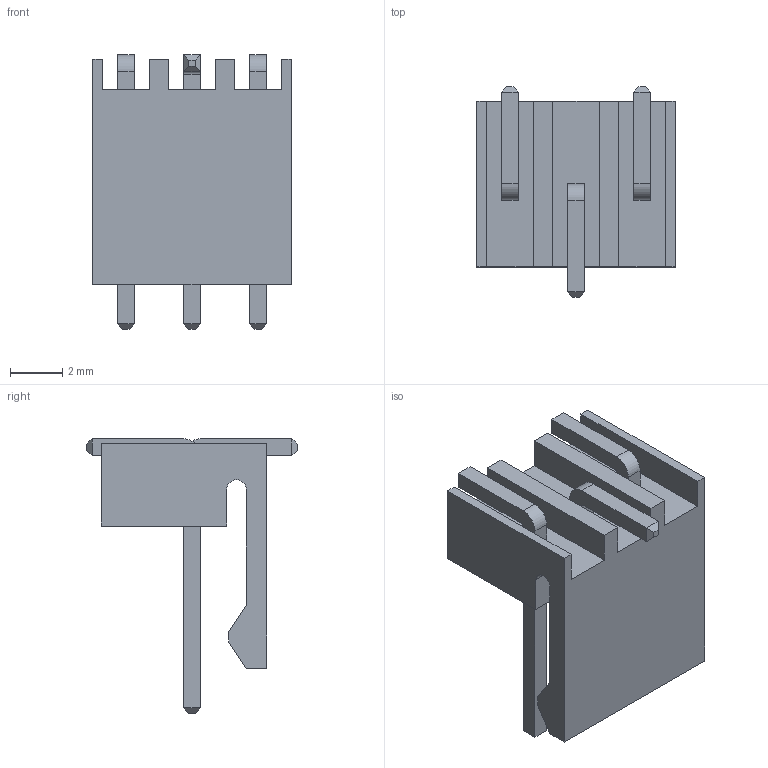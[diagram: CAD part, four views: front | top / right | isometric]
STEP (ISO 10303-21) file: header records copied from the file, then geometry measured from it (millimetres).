
FILE_DESCRIPTION (( 'STEP AP214' ), '1' );
FILE_NAME ('4071-F03TDT.STEP', '2019-11-04T07:28:02', ( 'ADMIN' ), ( '' ), 'SwSTEP 2.0', 'SolidWorks 2011', '' );
FILE_SCHEMA (( 'AUTOMOTIVE_DESIGN' ));
Length unit declared in the file: millimetre
Products named in the file (1): 4071-F03TDT
Bounding box: 7.62 x 8.08 x 10.54 mm (x, y, z)
Volume: 158.3 mm3; surface area: 427.2 mm2
Topology: 1 solids, 1 shells, 92 faces, 228 edges, 144 vertices
Faces by surface type: plane 85, cylinder 7
Entity records: 3700 total; most frequent: CARTESIAN_POINT 465, ORIENTED_EDGE 456, DIRECTION 428, EDGE_CURVE 228, LINE 214, VECTOR 214, VERTEX_POINT 144, AXIS2_PLACEMENT_3D 107
